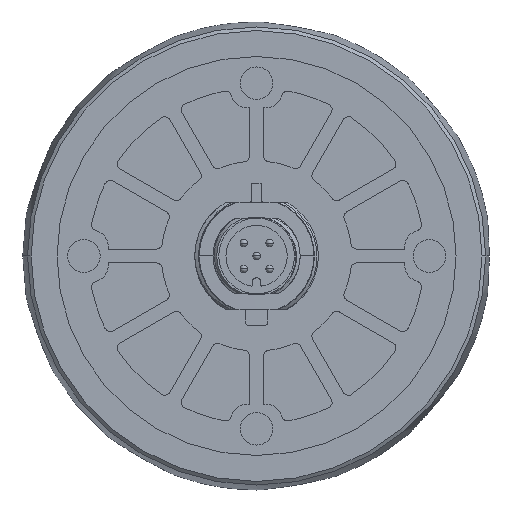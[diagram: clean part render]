
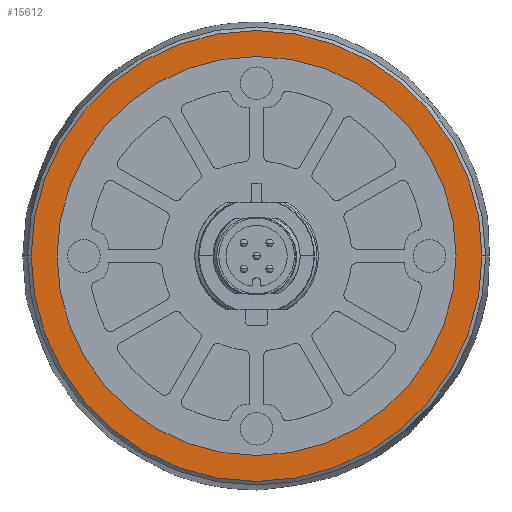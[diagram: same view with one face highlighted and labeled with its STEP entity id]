
A CAD part, front view. The second image highlights one B-rep face of the part: STEP entity #15612.
In plain terms, the highlighted planar face has unit normal (0, -1, 0).
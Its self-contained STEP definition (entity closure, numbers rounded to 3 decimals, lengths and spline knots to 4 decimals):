
#1=CARTESIAN_POINT('',(0.,-0.2453,0.));
#2=DIRECTION('',(0.,1.,0.));
#3=DIRECTION('',(-1.,0.,0.));
#4=AXIS2_PLACEMENT_3D('',#1,#2,#3);
#6=CARTESIAN_POINT('',(0.,-0.2453,0.));
#7=DIRECTION('',(0.,1.,0.));
#8=DIRECTION('',(1.,0.,0.));
#9=AXIS2_PLACEMENT_3D('',#6,#7,#8);
#11=CARTESIAN_POINT('',(0.,-0.2453,0.));
#12=DIRECTION('',(0.,-1.,0.));
#13=DIRECTION('',(-1.,0.,0.));
#14=AXIS2_PLACEMENT_3D('',#11,#12,#13);
#16=CARTESIAN_POINT('',(0.,-0.2453,0.));
#17=DIRECTION('',(0.,-1.,0.));
#18=DIRECTION('',(1.,0.,0.));
#19=AXIS2_PLACEMENT_3D('',#16,#17,#18);
#13885=CARTESIAN_POINT('',(-1.0457,-0.2453,0.));
#13886=CARTESIAN_POINT('',(1.0457,-0.2453,0.));
#13887=VERTEX_POINT('',#13885);
#13888=VERTEX_POINT('',#13886);
#14914=CARTESIAN_POINT('',(-1.2148,-0.2453,
0.));
#14915=CARTESIAN_POINT('',(1.2148,-0.2453,
0.));
#14916=VERTEX_POINT('',#14914);
#14917=VERTEX_POINT('',#14915);
#15595=CARTESIAN_POINT('',(0.,-0.2453,0.));
#15596=DIRECTION('',(0.,1.,0.));
#15597=DIRECTION('',(1.,0.,0.));
#15598=AXIS2_PLACEMENT_3D('',#15595,#15596,#15597);
#15599=PLANE('',#15598);
#15601=ORIENTED_EDGE('',*,*,#15600,.T.);
#15603=ORIENTED_EDGE('',*,*,#15602,.T.);
#15604=EDGE_LOOP('',(#15601,#15603));
#15605=FACE_OUTER_BOUND('',#15604,.F.);
#15607=ORIENTED_EDGE('',*,*,#15606,.T.);
#15609=ORIENTED_EDGE('',*,*,#15608,.T.);
#15610=EDGE_LOOP('',(#15607,#15609));
#15611=FACE_BOUND('',#15610,.F.);
#15612=ADVANCED_FACE('',(#15605,#15611),#15599,.F.);
#5=CIRCLE('',#4,1.2148);
#10=CIRCLE('',#9,1.2148);
#15=CIRCLE('',#14,1.0457);
#20=CIRCLE('',#19,1.0457);
#15600=EDGE_CURVE('',#14916,#14917,#5,.T.);
#15602=EDGE_CURVE('',#14917,#14916,#10,.T.);
#15606=EDGE_CURVE('',#13887,#13888,#15,.T.);
#15608=EDGE_CURVE('',#13888,#13887,#20,.T.);
